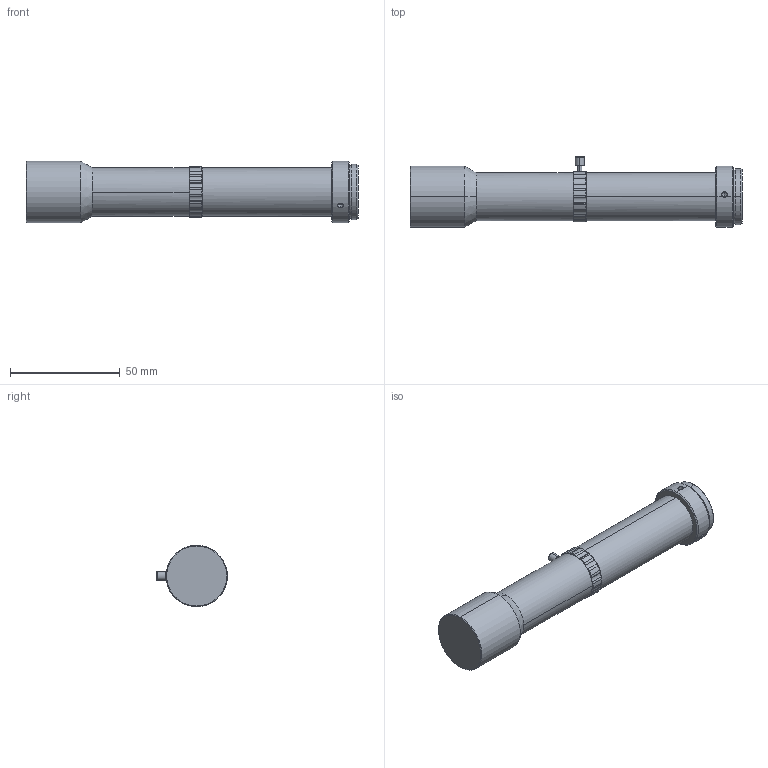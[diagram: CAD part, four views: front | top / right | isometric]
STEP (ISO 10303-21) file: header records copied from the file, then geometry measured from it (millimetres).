
FILE_DESCRIPTION (( 'STEP AP203' ), '1' );
FILE_NAME ('WWH20-110AT-GL.STEP', '2019-12-03T03:38:46', ( 'Windows 蚚誧' ), ( '' ), 'SwSTEP 2.0', 'SolidWorks 2017', '' );
FILE_SCHEMA (( 'CONFIG_CONTROL_DESIGN' ));
Length unit declared in the file: millimetre
Products named in the file (1): WWH20-110AT-GL
Bounding box: 151.4 x 32.29 x 28 mm (x, y, z)
Volume: 66483.4 mm3; surface area: 12946.4 mm2
Topology: 2 solids, 2 shells, 141 faces, 361 edges, 224 vertices
Faces by surface type: cylinder 70, cone 39, plane 30, bspline 2
Entity records: 4674 total; most frequent: CARTESIAN_POINT 1162, DIRECTION 780, ORIENTED_EDGE 710, EDGE_CURVE 355, AXIS2_PLACEMENT_3D 346, VERTEX_POINT 224, CIRCLE 206, EDGE_LOOP 147
